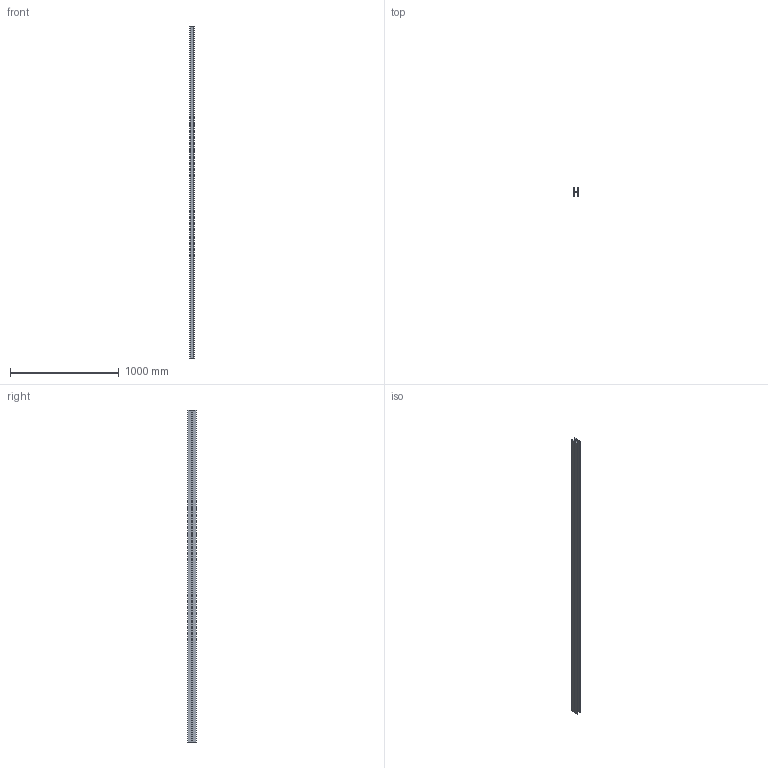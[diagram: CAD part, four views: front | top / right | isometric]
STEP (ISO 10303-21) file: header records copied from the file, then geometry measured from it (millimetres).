
FILE_DESCRIPTION(('TurboCAD Mac Pro'),'Build 980');
FILE_NAME('20P-2100.stp',' ',(''),(''),'ACIS Interop','IMSI','TurboCAD Mac Pro BY IMSI, INCORPORATED');
FILE_SCHEMA(('automotive_design'));
Length unit declared in the file: inch
Products named in the file (1): 1
Bounding box: 41.29 x 82.53 x 3048 mm (x, y, z)
Volume: 3345270.8 mm3; surface area: 1316855.7 mm2
Topology: 1 solids, 1 shells, 55 faces, 159 edges, 106 vertices
Faces by surface type: bspline 29, plane 26
Entity records: 2429 total; most frequent: CARTESIAN_POINT 706, ORIENTED_EDGE 318, DIRECTION 163, EDGE_CURVE 159, VERTEX_POINT 106, LINE 101, VECTOR 101, STYLED_ITEM 56
